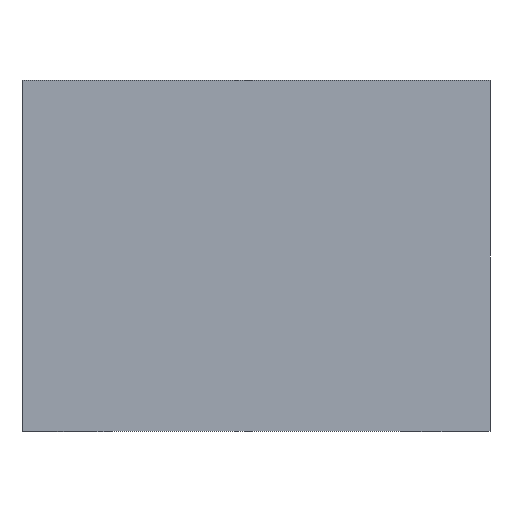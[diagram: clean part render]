
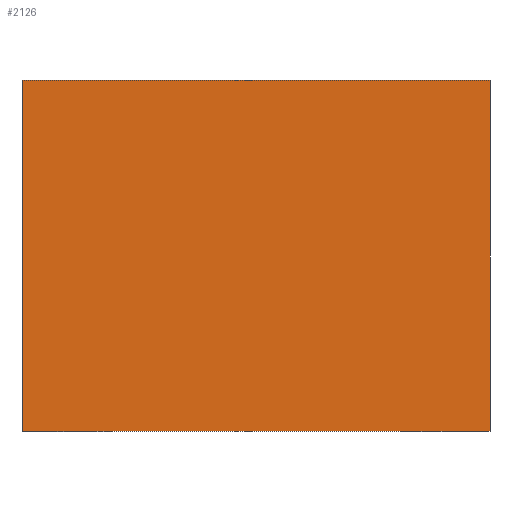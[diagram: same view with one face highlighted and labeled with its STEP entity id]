
A CAD part, front view. The second image highlights one B-rep face of the part: STEP entity #2126.
In plain terms, the highlighted planar face has unit normal (0, -1, 0).
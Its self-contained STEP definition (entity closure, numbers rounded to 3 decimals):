
#75 = DIRECTION ( 'NONE',  ( 1., 0., 0. ) ) ;
#138 = VECTOR ( 'NONE', #653, 1000. ) ;
#345 = CARTESIAN_POINT ( 'NONE',  ( -80., 0., -60. ) ) ;
#475 = EDGE_LOOP ( 'NONE', ( #1814, #710, #1173, #495 ) ) ;
#492 = CARTESIAN_POINT ( 'NONE',  ( -80., 0., 60. ) ) ;
#495 = ORIENTED_EDGE ( 'NONE', *, *, #669, .F. ) ;
#528 = EDGE_CURVE ( 'NONE', #829, #1250, #1542, .T. ) ;
#653 = DIRECTION ( 'NONE',  ( 0., 0., -1. ) ) ;
#669 = EDGE_CURVE ( 'NONE', #1250, #2173, #1783, .T. ) ;
#699 = CARTESIAN_POINT ( 'NONE',  ( -80., 0., -60. ) ) ;
#710 = ORIENTED_EDGE ( 'NONE', *, *, #1825, .F. ) ;
#787 = CARTESIAN_POINT ( 'NONE',  ( -80., 0., 60. ) ) ;
#821 = CARTESIAN_POINT ( 'NONE',  ( 80., 0., 60. ) ) ;
#829 = VERTEX_POINT ( 'NONE', #821 ) ;
#967 = AXIS2_PLACEMENT_3D ( 'NONE', #1023, #2088, #1030 ) ;
#1023 = CARTESIAN_POINT ( 'NONE',  ( 0., 0., 0. ) ) ;
#1030 = DIRECTION ( 'NONE',  ( 0., 0., 1. ) ) ;
#1173 = ORIENTED_EDGE ( 'NONE', *, *, #1466, .F. ) ;
#1200 = DIRECTION ( 'NONE',  ( 0., 0., 1. ) ) ;
#1250 = VERTEX_POINT ( 'NONE', #1735 ) ;
#1327 = CARTESIAN_POINT ( 'NONE',  ( 80., 0., -60. ) ) ;
#1398 = LINE ( 'NONE', #787, #2245 ) ;
#1466 = EDGE_CURVE ( 'NONE', #2173, #2069, #1962, .T. ) ;
#1492 = VECTOR ( 'NONE', #1200, 1000. ) ;
#1542 = LINE ( 'NONE', #1327, #138 ) ;
#1735 = CARTESIAN_POINT ( 'NONE',  ( 80., 0., -60. ) ) ;
#1742 = FACE_OUTER_BOUND ( 'NONE', #475, .T. ) ;
#1783 = LINE ( 'NONE', #2248, #1841 ) ;
#1814 = ORIENTED_EDGE ( 'NONE', *, *, #528, .F. ) ;
#1825 = EDGE_CURVE ( 'NONE', #2069, #829, #1398, .T. ) ;
#1841 = VECTOR ( 'NONE', #2085, 1000. ) ;
#1914 = PLANE ( 'NONE',  #967 ) ;
#1962 = LINE ( 'NONE', #699, #1492 ) ;
#2069 = VERTEX_POINT ( 'NONE', #492 ) ;
#2085 = DIRECTION ( 'NONE',  ( -1., 0., 0. ) ) ;
#2088 = DIRECTION ( 'NONE',  ( 0., 1., 0. ) ) ;
#2126 = ADVANCED_FACE ( 'NONE', ( #1742 ), #1914, .F. ) ;
#2173 = VERTEX_POINT ( 'NONE', #345 ) ;
#2245 = VECTOR ( 'NONE', #75, 1000. ) ;
#2248 = CARTESIAN_POINT ( 'NONE',  ( -80., 0., -60. ) ) ;
